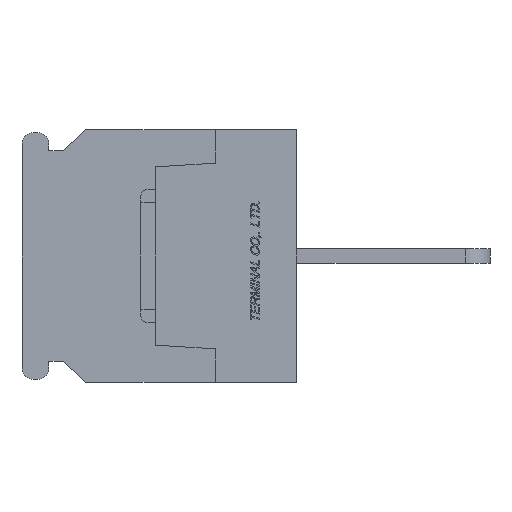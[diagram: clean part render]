
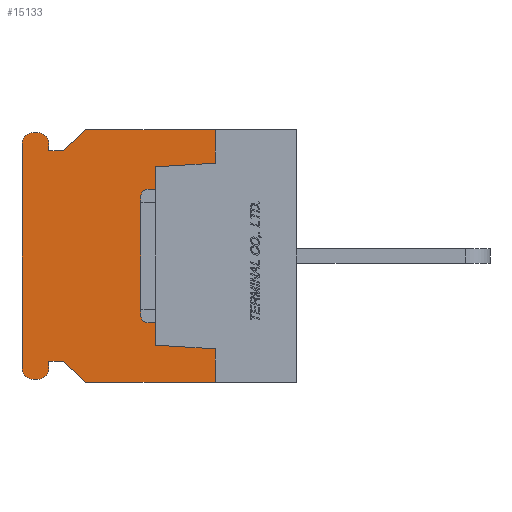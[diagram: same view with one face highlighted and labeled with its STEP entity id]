
A CAD part, left-side view. The second image highlights one B-rep face of the part: STEP entity #15133.
In plain terms, the highlighted planar face has unit normal (-1, 0, 0).
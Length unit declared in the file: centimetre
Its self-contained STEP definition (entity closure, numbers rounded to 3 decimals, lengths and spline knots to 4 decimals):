
#919=CIRCLE('',#16262,0.075);
#920=CIRCLE('',#16265,0.075);
#921=CIRCLE('',#16268,0.075);
#922=CIRCLE('',#16271,0.075);
#2047=VERTEX_POINT('',#23662);
#2048=VERTEX_POINT('',#23664);
#2049=VERTEX_POINT('',#23668);
#2050=VERTEX_POINT('',#23672);
#2051=VERTEX_POINT('',#23676);
#2052=VERTEX_POINT('',#23680);
#2099=VERTEX_POINT('',#23830);
#2100=VERTEX_POINT('',#23834);
#2101=VERTEX_POINT('',#23838);
#2102=VERTEX_POINT('',#23842);
#2103=VERTEX_POINT('',#23846);
#2104=VERTEX_POINT('',#23850);
#2105=VERTEX_POINT('',#23854);
#2106=VERTEX_POINT('',#23858);
#2107=VERTEX_POINT('',#23862);
#2108=VERTEX_POINT('',#23866);
#2109=VERTEX_POINT('',#23870);
#2110=VERTEX_POINT('',#23874);
#2111=VERTEX_POINT('',#23878);
#2112=VERTEX_POINT('',#23882);
#3627=VECTOR('',#18907,1.);
#3630=VECTOR('',#18911,1.);
#3632=VECTOR('',#18914,1.);
#3634=VECTOR('',#18917,1.);
#3636=VECTOR('',#18920,1.);
#3698=VECTOR('',#19039,1.);
#3700=VECTOR('',#19042,1.);
#3702=VECTOR('',#19045,1.);
#3704=VECTOR('',#19048,1.);
#3707=VECTOR('',#19056,1.);
#3710=VECTOR('',#19064,1.);
#3713=VECTOR('',#19072,1.);
#3716=VECTOR('',#19080,1.);
#3718=VECTOR('',#19083,1.);
#3720=VECTOR('',#19086,1.);
#3721=VECTOR('',#19088,1.);
#5295=LINE('',#23663,#3627);
#5298=LINE('',#23669,#3630);
#5300=LINE('',#23673,#3632);
#5302=LINE('',#23677,#3634);
#5304=LINE('',#23681,#3636);
#5366=LINE('',#23831,#3698);
#5368=LINE('',#23835,#3700);
#5370=LINE('',#23839,#3702);
#5372=LINE('',#23843,#3704);
#5375=LINE('',#23851,#3707);
#5378=LINE('',#23859,#3710);
#5381=LINE('',#23867,#3713);
#5384=LINE('',#23875,#3716);
#5386=LINE('',#23879,#3718);
#5388=LINE('',#23883,#3720);
#5389=LINE('',#23885,#3721);
#7433=EDGE_CURVE('',#2048,#2047,#5295,.T.);
#7436=EDGE_CURVE('',#2047,#2049,#5298,.T.);
#7438=EDGE_CURVE('',#2049,#2050,#5300,.T.);
#7440=EDGE_CURVE('',#2050,#2051,#5302,.T.);
#7442=EDGE_CURVE('',#2051,#2052,#5304,.T.);
#7516=EDGE_CURVE('',#2099,#2052,#5366,.T.);
#7518=EDGE_CURVE('',#2100,#2099,#5368,.T.);
#7520=EDGE_CURVE('',#2101,#2100,#5370,.T.);
#7522=EDGE_CURVE('',#2102,#2101,#5372,.T.);
#7524=EDGE_CURVE('',#2103,#2102,#919,.T.);
#7526=EDGE_CURVE('',#2104,#2103,#5375,.T.);
#7528=EDGE_CURVE('',#2105,#2104,#920,.T.);
#7530=EDGE_CURVE('',#2106,#2105,#5378,.T.);
#7532=EDGE_CURVE('',#2107,#2106,#921,.T.);
#7534=EDGE_CURVE('',#2108,#2107,#5381,.T.);
#7536=EDGE_CURVE('',#2109,#2108,#922,.T.);
#7538=EDGE_CURVE('',#2110,#2109,#5384,.T.);
#7540=EDGE_CURVE('',#2111,#2110,#5386,.T.);
#7542=EDGE_CURVE('',#2112,#2111,#5388,.T.);
#7543=EDGE_CURVE('',#2048,#2112,#5389,.T.);
#11551=ORIENTED_EDGE('',*,*,#7442,.T.);
#11552=ORIENTED_EDGE('',*,*,#7516,.F.);
#11553=ORIENTED_EDGE('',*,*,#7518,.F.);
#11554=ORIENTED_EDGE('',*,*,#7520,.F.);
#11555=ORIENTED_EDGE('',*,*,#7522,.F.);
#11556=ORIENTED_EDGE('',*,*,#7524,.F.);
#11557=ORIENTED_EDGE('',*,*,#7526,.F.);
#11558=ORIENTED_EDGE('',*,*,#7528,.F.);
#11559=ORIENTED_EDGE('',*,*,#7530,.F.);
#11560=ORIENTED_EDGE('',*,*,#7532,.F.);
#11561=ORIENTED_EDGE('',*,*,#7534,.F.);
#11562=ORIENTED_EDGE('',*,*,#7536,.F.);
#11563=ORIENTED_EDGE('',*,*,#7538,.F.);
#11564=ORIENTED_EDGE('',*,*,#7540,.F.);
#11565=ORIENTED_EDGE('',*,*,#7542,.F.);
#11566=ORIENTED_EDGE('',*,*,#7543,.F.);
#11567=ORIENTED_EDGE('',*,*,#7433,.T.);
#11568=ORIENTED_EDGE('',*,*,#7436,.T.);
#11569=ORIENTED_EDGE('',*,*,#7438,.T.);
#11570=ORIENTED_EDGE('',*,*,#7440,.T.);
#13309=EDGE_LOOP('',(#11551,#11552,#11553,#11554,#11555,#11556,#11557,#11558,
#11559,#11560,#11561,#11562,#11563,#11564,#11565,#11566,#11567,#11568,#11569,
#11570));
#14273=FACE_BOUND('',#13309,.T.);
#15133=ADVANCED_FACE('',(#14273),#25829,.F.);
#16262=AXIS2_PLACEMENT_3D('',#23847,#19052,#19053);
#16265=AXIS2_PLACEMENT_3D('',#23855,#19060,#19061);
#16268=AXIS2_PLACEMENT_3D('',#23863,#19068,#19069);
#16271=AXIS2_PLACEMENT_3D('',#23871,#19076,#19077);
#16276=AXIS2_PLACEMENT_3D('',#23886,#19089,$);
#18907=DIRECTION('',(0.,0.,1.));
#18911=DIRECTION('',(0.,0.998,0.062));
#18914=DIRECTION('',(0.,0.,1.));
#18917=DIRECTION('',(0.,-0.998,0.062));
#18920=DIRECTION('',(0.,0.,1.));
#19039=DIRECTION('',(0.,-1.,0.));
#19042=DIRECTION('',(0.,-0.731,0.682));
#19045=DIRECTION('',(0.,-1.,0.));
#19048=DIRECTION('',(0.,0.,-1.));
#19052=DIRECTION('',(1.,0.,0.));
#19053=DIRECTION('',(0.,0.,-0.075));
#19056=DIRECTION('',(0.,-1.,0.));
#19060=DIRECTION('',(1.,0.,0.));
#19061=DIRECTION('',(0.,0.,-0.075));
#19064=DIRECTION('',(0.,0.,1.));
#19068=DIRECTION('',(1.,0.,0.));
#19069=DIRECTION('',(0.,0.,-0.075));
#19072=DIRECTION('',(0.,1.,0.));
#19076=DIRECTION('',(1.,0.,0.));
#19077=DIRECTION('',(0.,0.,-0.075));
#19080=DIRECTION('',(0.,0.,-1.));
#19083=DIRECTION('',(0.,1.,0.));
#19086=DIRECTION('',(0.,0.731,0.682));
#19088=DIRECTION('',(0.,1.,0.));
#19089=DIRECTION('',(1.,0.,0.));
#23662=CARTESIAN_POINT('',(0.,0.55,-0.625));
#23663=CARTESIAN_POINT('',(0.,0.55,-0.3688));
#23664=CARTESIAN_POINT('',(0.,0.55,-0.85));
#23668=CARTESIAN_POINT('',(0.,0.95,-0.6));
#23669=CARTESIAN_POINT('',(0.,0.8629,-0.6054));
#23672=CARTESIAN_POINT('',(0.,0.95,0.6));
#23673=CARTESIAN_POINT('',(0.,0.95,0.));
#23676=CARTESIAN_POINT('',(0.,0.55,0.625));
#23677=CARTESIAN_POINT('',(0.,0.8629,0.6054));
#23680=CARTESIAN_POINT('',(0.,0.55,0.85));
#23681=CARTESIAN_POINT('',(0.,0.55,0.3687));
#23830=CARTESIAN_POINT('',(0.,1.42,0.85));
#23831=CARTESIAN_POINT('',(0.,1.42,0.85));
#23834=CARTESIAN_POINT('',(0.,1.57,0.71));
#23835=CARTESIAN_POINT('',(0.,1.57,0.71));
#23838=CARTESIAN_POINT('',(0.,1.67,0.71));
#23839=CARTESIAN_POINT('',(0.,1.67,0.71));
#23842=CARTESIAN_POINT('',(0.,1.67,0.755));
#23843=CARTESIAN_POINT('',(0.,1.67,0.755));
#23846=CARTESIAN_POINT('',(0.,1.745,0.83));
#23847=CARTESIAN_POINT('',(0.,1.745,0.755));
#23850=CARTESIAN_POINT('',(0.,1.775,0.83));
#23851=CARTESIAN_POINT('',(0.,1.775,0.83));
#23854=CARTESIAN_POINT('',(0.,1.85,0.755));
#23855=CARTESIAN_POINT('',(0.,1.775,0.755));
#23858=CARTESIAN_POINT('',(0.,1.85,-0.755));
#23859=CARTESIAN_POINT('',(0.,1.85,-0.755));
#23862=CARTESIAN_POINT('',(0.,1.775,-0.83));
#23863=CARTESIAN_POINT('',(0.,1.775,-0.755));
#23866=CARTESIAN_POINT('',(0.,1.745,-0.83));
#23867=CARTESIAN_POINT('',(0.,1.745,-0.83));
#23870=CARTESIAN_POINT('',(0.,1.67,-0.755));
#23871=CARTESIAN_POINT('',(0.,1.745,-0.755));
#23874=CARTESIAN_POINT('',(0.,1.67,-0.71));
#23875=CARTESIAN_POINT('',(0.,1.67,-0.71));
#23878=CARTESIAN_POINT('',(0.,1.57,-0.71));
#23879=CARTESIAN_POINT('',(0.,1.57,-0.71));
#23882=CARTESIAN_POINT('',(0.,1.42,-0.85));
#23883=CARTESIAN_POINT('',(0.,1.42,-0.85));
#23885=CARTESIAN_POINT('',(0.,0.,-0.85));
#23886=CARTESIAN_POINT('',(0.,0.9383,0.));
#25829=PLANE('',#16276);
